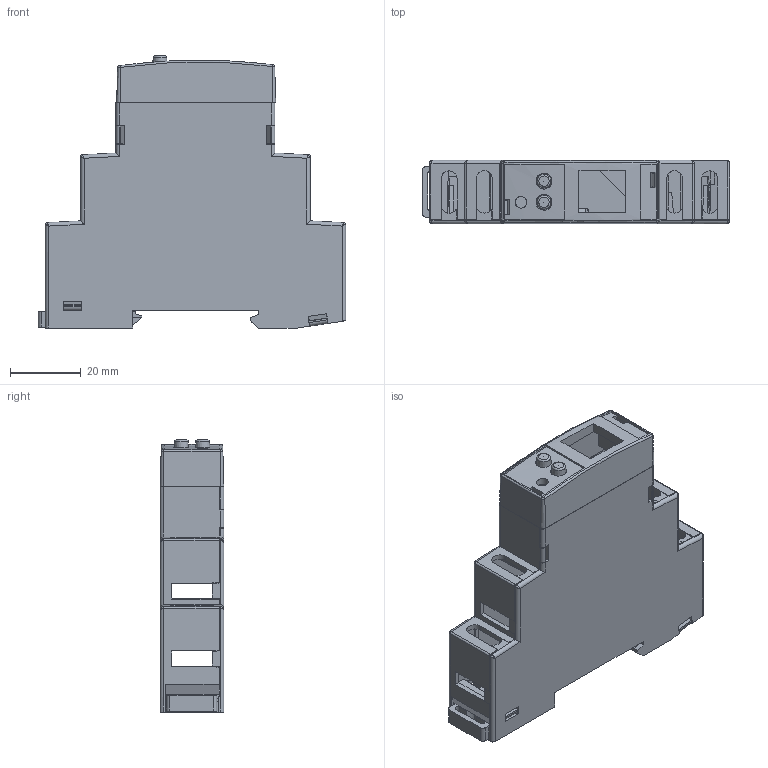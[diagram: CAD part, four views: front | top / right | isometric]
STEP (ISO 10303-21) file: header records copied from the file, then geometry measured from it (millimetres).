
FILE_DESCRIPTION( ( 'Unknown' ), '1' );
FILE_NAME( 'Z:/GIC/Marketing requirement/3D drawing to Altech - SGA/1M ELIRO/1M ELIRO.stp', 'Unknown', ( 'Unknown' ), ( 'Unknown' ), 'PSStep 17.0.49', 'Unknown', ' ' );
FILE_SCHEMA( ( 'AUTOMOTIVE_DESIGN { 1 0 10303 214 1 1 1 1 }' ) );
Length unit declared in the file: millimetre
Products named in the file (6): BOTTOM; TOP; Siva1278C362d44j; VF1911_VF1912_VF1913_VF1915_REV_03_KEY PAD; 1F1101_1F1110_1F1103_REV08_DINRAIL_CLIP 1M
Bounding box: 86.96 x 18 x 76.99 mm (x, y, z)
Volume: 19914.5 mm3; surface area: 34302.5 mm2
Topology: 6 solids, 6 shells, 864 faces, 2417 edges, 1559 vertices
Faces by surface type: plane 705, cylinder 114, bspline 15, cone 13, sphere 12, torus 5
Full cylindrical faces by diameter (mm): 0.01 x2, 1.6 x2, 1.9 x1, 2.6 x2, 3.3 x1, 4.5 x2, 5.5 x2
Entity records: 35229 total; most frequent: CARTESIAN_POINT 6195, ORIENTED_EDGE 4720, DIRECTION 4310, EDGE_CURVE 2360, LINE 2058, VECTOR 2058, VERTEX_POINT 1543, AXIS2_PLACEMENT_3D 1126
